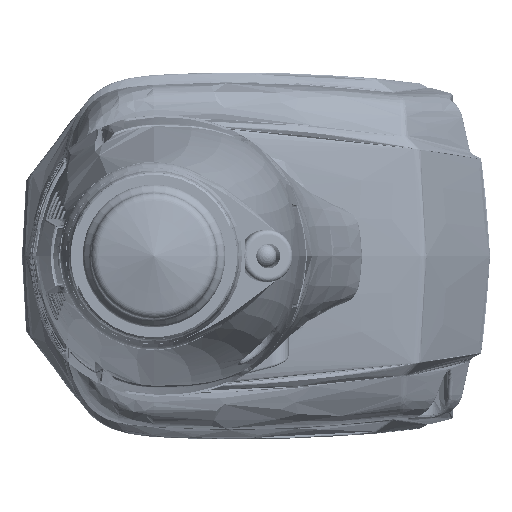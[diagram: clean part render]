
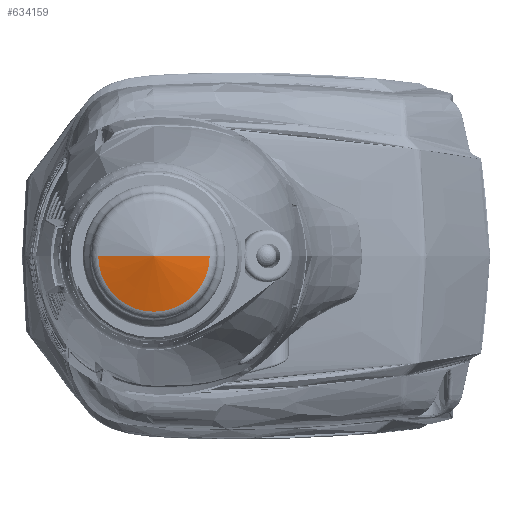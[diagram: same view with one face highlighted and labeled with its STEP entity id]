
A CAD part, left-side view. The second image highlights one B-rep face of the part: STEP entity #634159.
In plain terms, the highlighted conical face has half-angle 77.258 degrees and reference radius 5.854 mm.
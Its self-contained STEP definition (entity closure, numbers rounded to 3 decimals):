
#249104=CARTESIAN_POINT('',(-203.953,0.,0.));
#249105=DIRECTION('',(-1.,0.,0.));
#249106=DIRECTION('',(0.,1.,0.));
#249107=AXIS2_PLACEMENT_3D('',#249104,#249105,#249106);
#249112=DIRECTION('',(-0.221,-0.975,0.));
#249113=VECTOR('',#249112,12.003);
#249114=CARTESIAN_POINT('',(-203.953,11.708,0.));
#249115=LINE('',#249114,#249113);
#249119=DIRECTION('',(-0.221,0.975,0.));
#249120=VECTOR('',#249119,12.003);
#249121=CARTESIAN_POINT('',(-203.953,-11.708,0.));
#249122=LINE('',#249121,#249120);
#267217=CARTESIAN_POINT('',(-203.953,-11.708,0.));
#267218=CARTESIAN_POINT('',(-203.953,11.708,0.));
#267219=VERTEX_POINT('',#267217);
#267220=VERTEX_POINT('',#267218);
#267225=CARTESIAN_POINT('',(-206.6,0.,0.));
#267226=VERTEX_POINT('',#267225);
#634147=CARTESIAN_POINT('',(-205.276,0.,0.));
#634148=DIRECTION('',(1.,0.,0.));
#634149=DIRECTION('',(0.,1.,0.));
#634150=AXIS2_PLACEMENT_3D('',#634147,#634148,#634149);
#634151=CONICAL_SURFACE('',#634150,5.854,77.258);
#634152=ORIENTED_EDGE('',*,*,#634130,.F.);
#634154=ORIENTED_EDGE('',*,*,#634153,.T.);
#634156=ORIENTED_EDGE('',*,*,#634155,.F.);
#634157=EDGE_LOOP('',(#634152,#634154,#634156));
#634158=FACE_OUTER_BOUND('',#634157,.F.);
#634159=ADVANCED_FACE('',(#634158),#634151,.T.);
#249108=CIRCLE('',#249107,11.708);
#634130=EDGE_CURVE('',#267220,#267219,#249108,.T.);
#634153=EDGE_CURVE('',#267220,#267226,#249115,.T.);
#634155=EDGE_CURVE('',#267219,#267226,#249122,.T.);
